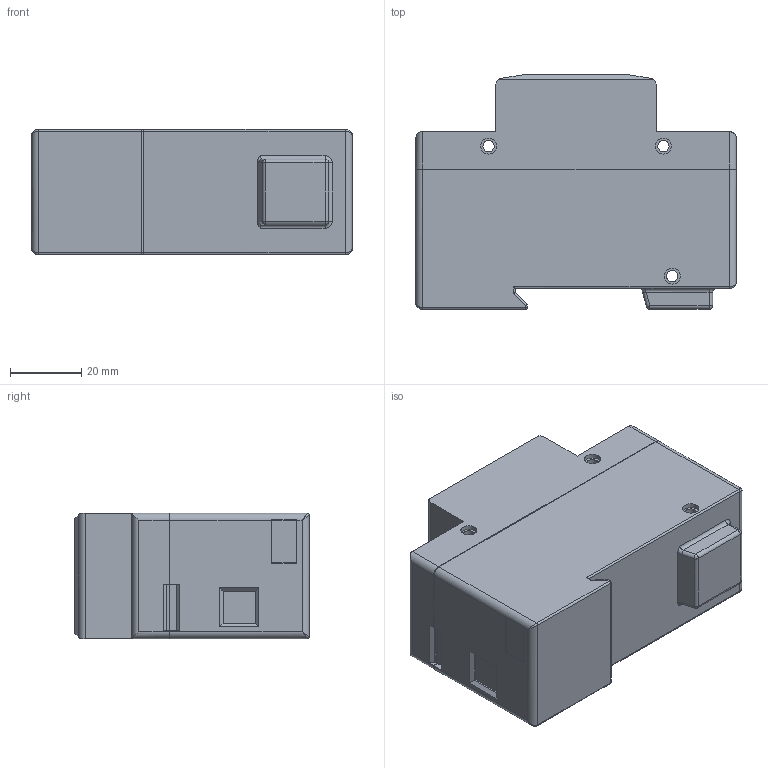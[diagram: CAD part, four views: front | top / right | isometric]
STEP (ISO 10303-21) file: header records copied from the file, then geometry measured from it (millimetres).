
FILE_DESCRIPTION(/* description */ (''),/* implementation_level */ '2;1');
FILE_NAME(/* name */ 'K:\PROJEKTY ROZPRACOVANÉ\MODELY DO KATALOGU\HLSA25, HLSA25G, HLA\3D - STEP\H25 1+0.stp',/* time_stamp */ '2020-03-24T07:24:23+01:00',/* author */ ('M Koliska'),/* organization */ (''),/* preprocessor_version */ 'ST-DEVELOPER v18',/* originating_system */ 'Autodesk Inventor 2020',/* authorisation */ '');
FILE_SCHEMA (('AUTOMOTIVE_DESIGN { 1 0 10303 214 3 1 1 }'));
Length unit declared in the file: millimetre
Products named in the file (3): HLSA25; HLSA25_1; DIN 7985 (H) - M6x10-H
Assembly tree (4 placements, depth 2):
  HLSA25
    HLSA25_1
    DIN 7985 (H) - M6x10-H  x3
Bounding box: 90 x 65.8 x 35.2 mm (x, y, z)
Volume: 170679.9 mm3; surface area: 25333.7 mm2
Topology: 4 solids, 4 shells, 333 faces, 870 edges, 563 vertices
Faces by surface type: plane 207, cylinder 58, cone 48, sphere 9, bspline 6, torus 5
Full cylindrical faces by diameter (mm): 3.2 x3, 4.5 x6, 5.5 x3, 6 x3, 7.5 x3
Entity records: 7977 total; most frequent: CARTESIAN_POINT 1565, DIRECTION 1315, ORIENTED_EDGE 1304, EDGE_CURVE 652, LINE 461, VECTOR 461, AXIS2_PLACEMENT_3D 427, VERTEX_POINT 419
